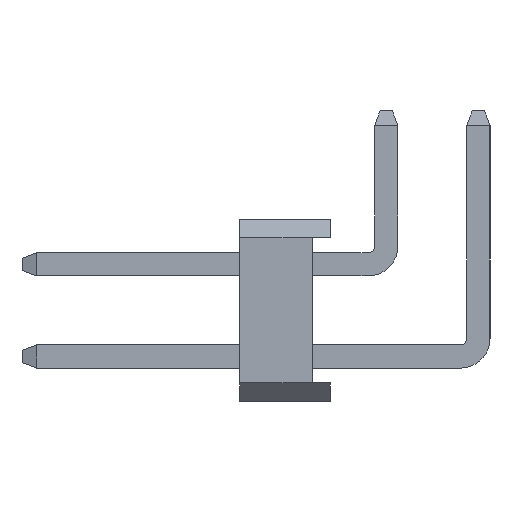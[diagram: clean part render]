
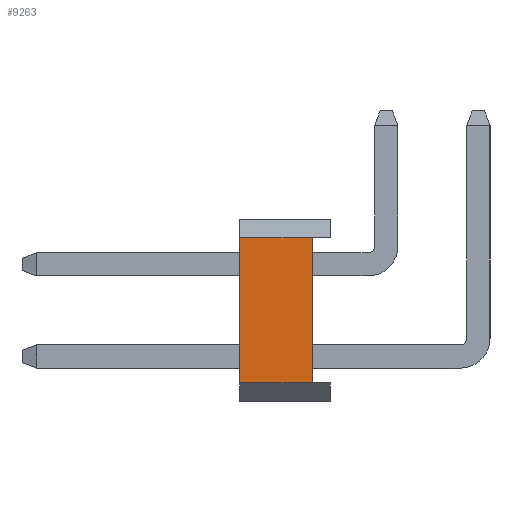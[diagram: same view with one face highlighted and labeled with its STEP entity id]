
A CAD part, left-side view. The second image highlights one B-rep face of the part: STEP entity #9263.
In plain terms, the highlighted planar face has unit normal (-1, 0, 0).
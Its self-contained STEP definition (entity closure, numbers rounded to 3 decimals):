
#645=FACE_OUTER_BOUND('',#1211,.T.);
#1211=EDGE_LOOP('',(#7979,#7980,#7981,#7982));
#2347=LINE('',#14681,#3551);
#2348=LINE('',#14683,#3552);
#2349=LINE('',#14685,#3553);
#2350=LINE('',#14686,#3554);
#3551=VECTOR('',#12095,10.);
#3552=VECTOR('',#12096,10.);
#3553=VECTOR('',#12097,10.);
#3554=VECTOR('',#12098,10.);
#4379=VERTEX_POINT('',#14645);
#4384=VERTEX_POINT('',#14655);
#4395=VERTEX_POINT('',#14682);
#4396=VERTEX_POINT('',#14684);
#5603=EDGE_CURVE('',#4379,#4384,#2347,.T.);
#5604=EDGE_CURVE('',#4384,#4395,#2348,.T.);
#5605=EDGE_CURVE('',#4395,#4396,#2349,.T.);
#5606=EDGE_CURVE('',#4379,#4396,#2350,.T.);
#7979=ORIENTED_EDGE('',*,*,#5603,.T.);
#7980=ORIENTED_EDGE('',*,*,#5604,.T.);
#7981=ORIENTED_EDGE('',*,*,#5605,.T.);
#7982=ORIENTED_EDGE('',*,*,#5606,.F.);
#8729=PLANE('',#9891);
#9263=ADVANCED_FACE('',(#645),#8729,.T.);
#9891=AXIS2_PLACEMENT_3D('',#14680,#12093,#12094);
#12093=DIRECTION('center_axis',(-1.,0.,0.));
#12094=DIRECTION('ref_axis',(0.,0.,1.));
#12095=DIRECTION('',(0.,0.,1.));
#12096=DIRECTION('',(0.,1.,0.));
#12097=DIRECTION('',(0.,0.,-1.));
#12098=DIRECTION('',(0.,1.,0.));
#14645=CARTESIAN_POINT('',(-55.84,6.9,0.5));
#14655=CARTESIAN_POINT('',(-55.84,6.9,4.5));
#14680=CARTESIAN_POINT('Origin',(-55.84,6.4,0.5));
#14681=CARTESIAN_POINT('',(-55.84,6.9,1.5));
#14682=CARTESIAN_POINT('',(-55.84,8.9,4.5));
#14683=CARTESIAN_POINT('',(-55.84,6.4,4.5));
#14684=CARTESIAN_POINT('',(-55.84,8.9,0.5));
#14685=CARTESIAN_POINT('',(-55.84,8.9,5.));
#14686=CARTESIAN_POINT('',(-55.84,6.4,0.5));
